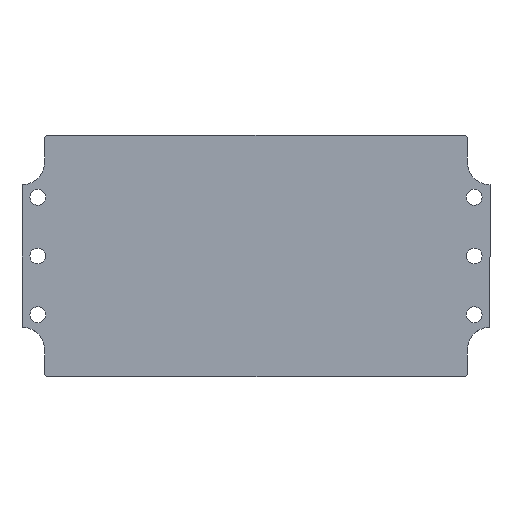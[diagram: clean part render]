
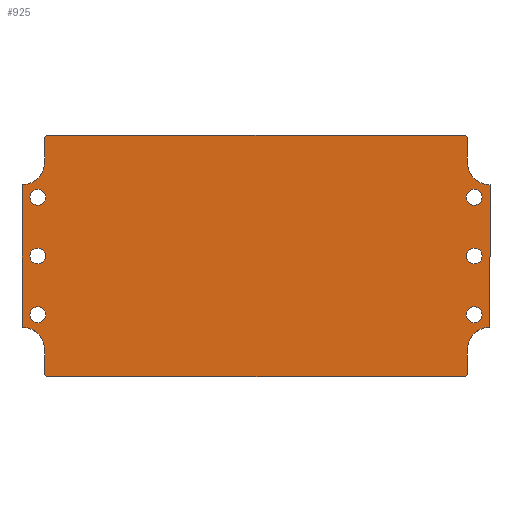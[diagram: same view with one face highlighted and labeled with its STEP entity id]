
A CAD part, top view. The second image highlights one B-rep face of the part: STEP entity #925.
In plain terms, the highlighted planar face has unit normal (0, 0, 1).
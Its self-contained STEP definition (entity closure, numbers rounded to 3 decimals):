
#49=CARTESIAN_POINT('',(164.825,59.216,0.5));
#50=VERTEX_POINT('',#49);
#51=CARTESIAN_POINT('',(165.825,58.216,0.5));
#52=VERTEX_POINT('',#51);
#53=CARTESIAN_POINT('',(164.825,59.216,0.5));
#54=DIRECTION('',(0.707,-0.707,0.0));
#55=VECTOR('',#54,1.414);
#56=LINE('',#53,#55);
#57=EDGE_CURVE('',#50,#52,#56,.T.);
#98=CARTESIAN_POINT('',(-20.175,59.216,0.5));
#99=VERTEX_POINT('',#98);
#106=CARTESIAN_POINT('',(-20.175,59.216,0.5));
#107=DIRECTION('',(1.0,0.0,0.0));
#108=VECTOR('',#107,185.0);
#109=LINE('',#106,#108);
#110=EDGE_CURVE('',#99,#50,#109,.T.);
#310=CARTESIAN_POINT('',(-20.175,-47.784,0.5));
#311=VERTEX_POINT('',#310);
#312=CARTESIAN_POINT('',(-21.175,-46.784,0.5));
#313=VERTEX_POINT('',#312);
#314=CARTESIAN_POINT('',(-20.175,-47.784,0.5));
#315=DIRECTION('',(-0.707,0.707,0.0));
#316=VECTOR('',#315,1.414);
#317=LINE('',#314,#316);
#318=EDGE_CURVE('',#311,#313,#317,.T.);
#343=CARTESIAN_POINT('',(164.825,-47.784,0.5));
#344=VERTEX_POINT('',#343);
#351=CARTESIAN_POINT('',(164.825,-47.784,0.5));
#352=DIRECTION('',(-1.0,0.0,0.0));
#353=VECTOR('',#352,185.);
#354=LINE('',#351,#353);
#355=EDGE_CURVE('',#344,#311,#354,.T.);
#365=CARTESIAN_POINT('',(165.825,-46.784,0.5));
#366=VERTEX_POINT('',#365);
#367=CARTESIAN_POINT('',(165.825,-46.784,0.5));
#368=DIRECTION('',(-0.707,-0.707,0.0));
#369=VECTOR('',#368,1.414);
#370=LINE('',#367,#369);
#371=EDGE_CURVE('',#366,#344,#370,.T.);
#391=CARTESIAN_POINT('',(165.825,-35.784,0.5));
#392=VERTEX_POINT('',#391);
#399=CARTESIAN_POINT('',(165.825,-35.784,0.5));
#400=DIRECTION('',(0.0,-1.0,0.0));
#401=VECTOR('',#400,11.);
#402=LINE('',#399,#401);
#403=EDGE_CURVE('',#392,#366,#402,.T.);
#413=CARTESIAN_POINT('',(-21.175,58.216,0.5));
#414=VERTEX_POINT('',#413);
#415=CARTESIAN_POINT('',(-21.175,58.216,0.5));
#416=DIRECTION('',(0.707,0.707,0.0));
#417=VECTOR('',#416,1.414);
#418=LINE('',#415,#417);
#419=EDGE_CURVE('',#414,#99,#418,.T.);
#461=CARTESIAN_POINT('',(172.325,31.716,0.5));
#462=VERTEX_POINT('',#461);
#463=CARTESIAN_POINT('',(168.825,31.716,0.5));
#464=DIRECTION('',(0.0,0.0,-1.0));
#465=DIRECTION('',(1.0,0.0,0.0));
#466=AXIS2_PLACEMENT_3D('',#463,#464,#465);
#467=CIRCLE('',#466,3.5);
#468=EDGE_CURVE('',#462,#462,#467,.T.);
#502=CARTESIAN_POINT('',(-20.675,-20.284,0.5));
#503=VERTEX_POINT('',#502);
#504=CARTESIAN_POINT('',(-24.175,-20.284,0.5));
#505=DIRECTION('',(0.0,0.0,-1.0));
#506=DIRECTION('',(1.0,0.0,0.0));
#507=AXIS2_PLACEMENT_3D('',#504,#505,#506);
#508=CIRCLE('',#507,3.5);
#509=EDGE_CURVE('',#503,#503,#508,.T.);
#543=CARTESIAN_POINT('',(-20.675,5.716,0.5));
#544=VERTEX_POINT('',#543);
#545=CARTESIAN_POINT('',(-24.175,5.716,0.5));
#546=DIRECTION('',(0.0,0.0,-1.0));
#547=DIRECTION('',(1.0,0.0,0.0));
#548=AXIS2_PLACEMENT_3D('',#545,#546,#547);
#549=CIRCLE('',#548,3.5);
#550=EDGE_CURVE('',#544,#544,#549,.T.);
#584=CARTESIAN_POINT('',(172.325,5.716,0.5));
#585=VERTEX_POINT('',#584);
#586=CARTESIAN_POINT('',(168.825,5.716,0.5));
#587=DIRECTION('',(0.0,0.0,-1.0));
#588=DIRECTION('',(1.0,0.0,0.0));
#589=AXIS2_PLACEMENT_3D('',#586,#587,#588);
#590=CIRCLE('',#589,3.5);
#591=EDGE_CURVE('',#585,#585,#590,.T.);
#625=CARTESIAN_POINT('',(172.325,-20.284,0.5));
#626=VERTEX_POINT('',#625);
#627=CARTESIAN_POINT('',(168.825,-20.284,0.5));
#628=DIRECTION('',(0.0,0.0,-1.0));
#629=DIRECTION('',(1.0,0.0,0.0));
#630=AXIS2_PLACEMENT_3D('',#627,#628,#629);
#631=CIRCLE('',#630,3.5);
#632=EDGE_CURVE('',#626,#626,#631,.T.);
#666=CARTESIAN_POINT('',(-20.675,31.716,0.5));
#667=VERTEX_POINT('',#666);
#668=CARTESIAN_POINT('',(-24.175,31.716,0.5));
#669=DIRECTION('',(0.0,0.0,-1.0));
#670=DIRECTION('',(1.0,0.0,0.0));
#671=AXIS2_PLACEMENT_3D('',#668,#669,#670);
#672=CIRCLE('',#671,3.5);
#673=EDGE_CURVE('',#667,#667,#672,.T.);
#683=CARTESIAN_POINT('',(165.825,47.216,0.5));
#684=VERTEX_POINT('',#683);
#685=CARTESIAN_POINT('',(175.825,37.216,0.5));
#686=VERTEX_POINT('',#685);
#687=CARTESIAN_POINT('',(175.825,47.216,0.5));
#688=DIRECTION('',(0.0,0.0,1.0));
#689=DIRECTION('',(1.0,0.0,0.0));
#690=AXIS2_PLACEMENT_3D('',#687,#688,#689);
#691=CIRCLE('',#690,10.0);
#692=EDGE_CURVE('',#684,#686,#691,.T.);
#715=CARTESIAN_POINT('',(175.825,-25.784,0.5));
#716=VERTEX_POINT('',#715);
#717=CARTESIAN_POINT('',(175.825,37.216,0.5));
#718=DIRECTION('',(0.0,-1.0,0.0));
#719=VECTOR('',#718,63.);
#720=LINE('',#717,#719);
#721=EDGE_CURVE('',#686,#716,#720,.T.);
#739=CARTESIAN_POINT('',(175.825,-35.784,0.5));
#740=DIRECTION('',(0.0,0.0,1.0));
#741=DIRECTION('',(0.0,-1.0,0.0));
#742=AXIS2_PLACEMENT_3D('',#739,#740,#741);
#743=CIRCLE('',#742,10.0);
#744=EDGE_CURVE('',#716,#392,#743,.T.);
#758=CARTESIAN_POINT('',(-21.175,-35.784,0.5));
#759=VERTEX_POINT('',#758);
#760=CARTESIAN_POINT('',(-21.175,-46.784,0.5));
#761=DIRECTION('',(0.0,1.0,0.0));
#762=VECTOR('',#761,11.);
#763=LINE('',#760,#762);
#764=EDGE_CURVE('',#313,#759,#763,.T.);
#781=CARTESIAN_POINT('',(-31.175,-25.784,0.5));
#782=VERTEX_POINT('',#781);
#783=CARTESIAN_POINT('',(-31.175,-35.784,0.5));
#784=DIRECTION('',(0.0,0.0,1.0));
#785=DIRECTION('',(-1.0,0.0,0.0));
#786=AXIS2_PLACEMENT_3D('',#783,#784,#785);
#787=CIRCLE('',#786,10.0);
#788=EDGE_CURVE('',#759,#782,#787,.T.);
#806=CARTESIAN_POINT('',(-31.175,37.216,0.5));
#807=VERTEX_POINT('',#806);
#808=CARTESIAN_POINT('',(-31.175,-25.784,0.5));
#809=DIRECTION('',(0.0,1.0,0.0));
#810=VECTOR('',#809,63.0);
#811=LINE('',#808,#810);
#812=EDGE_CURVE('',#782,#807,#811,.T.);
#830=CARTESIAN_POINT('',(-21.175,47.216,0.5));
#831=VERTEX_POINT('',#830);
#832=CARTESIAN_POINT('',(-31.175,47.216,0.5));
#833=DIRECTION('',(0.0,0.0,1.0));
#834=DIRECTION('',(0.0,1.0,0.0));
#835=AXIS2_PLACEMENT_3D('',#832,#833,#834);
#836=CIRCLE('',#835,10.0);
#837=EDGE_CURVE('',#807,#831,#836,.T.);
#858=CARTESIAN_POINT('',(-21.175,47.216,0.5));
#859=DIRECTION('',(0.0,1.0,0.0));
#860=VECTOR('',#859,11.0);
#861=LINE('',#858,#860);
#862=EDGE_CURVE('',#831,#414,#861,.T.);
#873=CARTESIAN_POINT('',(165.825,58.216,0.5));
#874=DIRECTION('',(0.0,-1.0,0.0));
#875=VECTOR('',#874,11.0);
#876=LINE('',#873,#875);
#877=EDGE_CURVE('',#52,#684,#876,.T.);
#884=CARTESIAN_POINT('',(72.325,5.716,0.5));
#885=DIRECTION('',(0.0,0.0,1.0));
#886=DIRECTION('',(1.0,0.0,0.0));
#887=AXIS2_PLACEMENT_3D('',#884,#885,#886);
#888=PLANE('',#887);
#889=ORIENTED_EDGE('',*,*,#57,.F.);
#890=ORIENTED_EDGE('',*,*,#110,.F.);
#891=ORIENTED_EDGE('',*,*,#419,.F.);
#892=ORIENTED_EDGE('',*,*,#862,.F.);
#893=ORIENTED_EDGE('',*,*,#837,.F.);
#894=ORIENTED_EDGE('',*,*,#812,.F.);
#895=ORIENTED_EDGE('',*,*,#788,.F.);
#896=ORIENTED_EDGE('',*,*,#764,.F.);
#897=ORIENTED_EDGE('',*,*,#318,.F.);
#898=ORIENTED_EDGE('',*,*,#355,.F.);
#899=ORIENTED_EDGE('',*,*,#371,.F.);
#900=ORIENTED_EDGE('',*,*,#403,.F.);
#901=ORIENTED_EDGE('',*,*,#744,.F.);
#902=ORIENTED_EDGE('',*,*,#721,.F.);
#903=ORIENTED_EDGE('',*,*,#692,.F.);
#904=ORIENTED_EDGE('',*,*,#877,.F.);
#905=EDGE_LOOP('',(#889,#890,#891,#892,#893,#894,#895,#896,#897,#898,#899,#900,#901,#902,#903,#904));
#906=FACE_OUTER_BOUND('',#905,.T.);
#907=ORIENTED_EDGE('',*,*,#468,.T.);
#908=EDGE_LOOP('',(#907));
#909=FACE_BOUND('',#908,.T.);
#910=ORIENTED_EDGE('',*,*,#509,.T.);
#911=EDGE_LOOP('',(#910));
#912=FACE_BOUND('',#911,.T.);
#913=ORIENTED_EDGE('',*,*,#550,.T.);
#914=EDGE_LOOP('',(#913));
#915=FACE_BOUND('',#914,.T.);
#916=ORIENTED_EDGE('',*,*,#591,.T.);
#917=EDGE_LOOP('',(#916));
#918=FACE_BOUND('',#917,.T.);
#919=ORIENTED_EDGE('',*,*,#632,.T.);
#920=EDGE_LOOP('',(#919));
#921=FACE_BOUND('',#920,.T.);
#922=ORIENTED_EDGE('',*,*,#673,.T.);
#923=EDGE_LOOP('',(#922));
#924=FACE_BOUND('',#923,.T.);
#925=ADVANCED_FACE('',(#906,#909,#912,#915,#918,#921,#924),#888,.T.);
